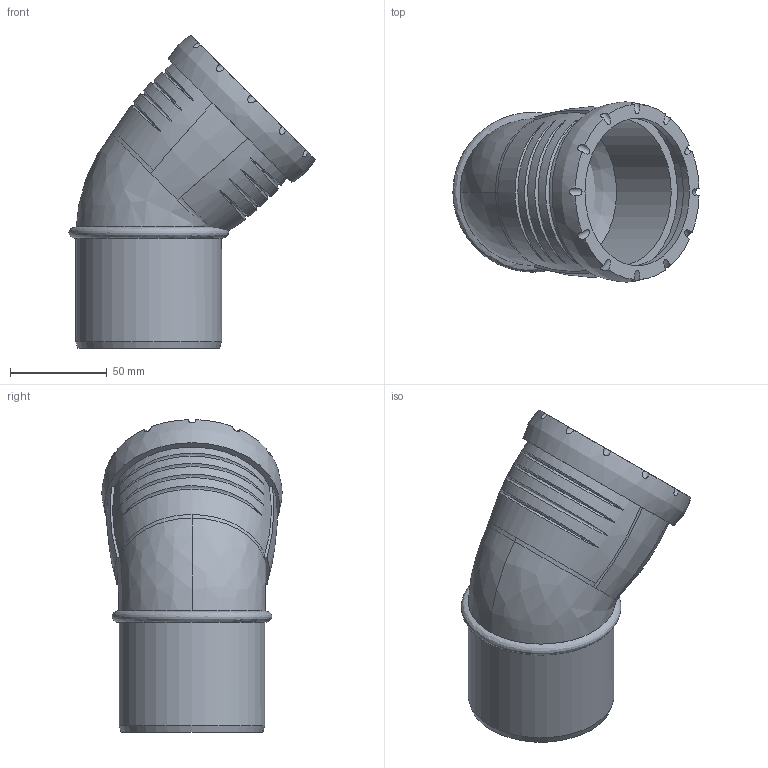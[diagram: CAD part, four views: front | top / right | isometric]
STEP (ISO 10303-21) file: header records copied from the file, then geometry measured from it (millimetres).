
FILE_DESCRIPTION(/* description */ (''),/* implementation_level */ '2;1');
FILE_NAME(/* name */ 'H:\Geberit-Teile\Export\Bogen_TEST\stp\393322.stp',/* time_stamp */ '2017-02-14T10:07:12+01:00',/* author */ ('seihe2'),/* organization */ (''),/* preprocessor_version */ 'ST-DEVELOPER v15.2',/* originating_system */ 'Autodesk Inventor 2014',/* authorisation */ '');
FILE_SCHEMA (('AUTOMOTIVE_DESIGN { 1 0 10303 214 3 1 1 }'));
Length unit declared in the file: millimetre
Products named in the file (1): 393322
Bounding box: 126.96 x 92.99 x 161.34 mm (x, y, z)
Volume: 270634.6 mm3; surface area: 84788.9 mm2
Topology: 2 solids, 2 shells, 56 faces, 139 edges, 98 vertices
Faces by surface type: bspline 27, cylinder 19, plane 8, cone 2
Full cylindrical faces by diameter (mm): 67.6 x1, 75.2 x1, 75.9 x1, 76.2 x1, 85 x1
Entity records: 4323 total; most frequent: CARTESIAN_POINT 3096, ORIENTED_EDGE 264, DIRECTION 180, EDGE_CURVE 131, VERTEX_POINT 97, AXIS2_PLACEMENT_3D 90, EDGE_LOOP 77, B_SPLINE_CURVE_WITH_KNOTS 70
